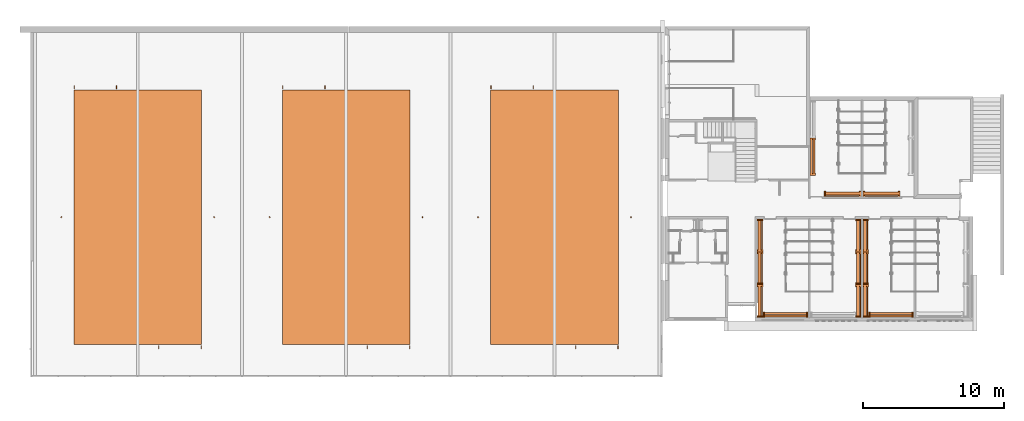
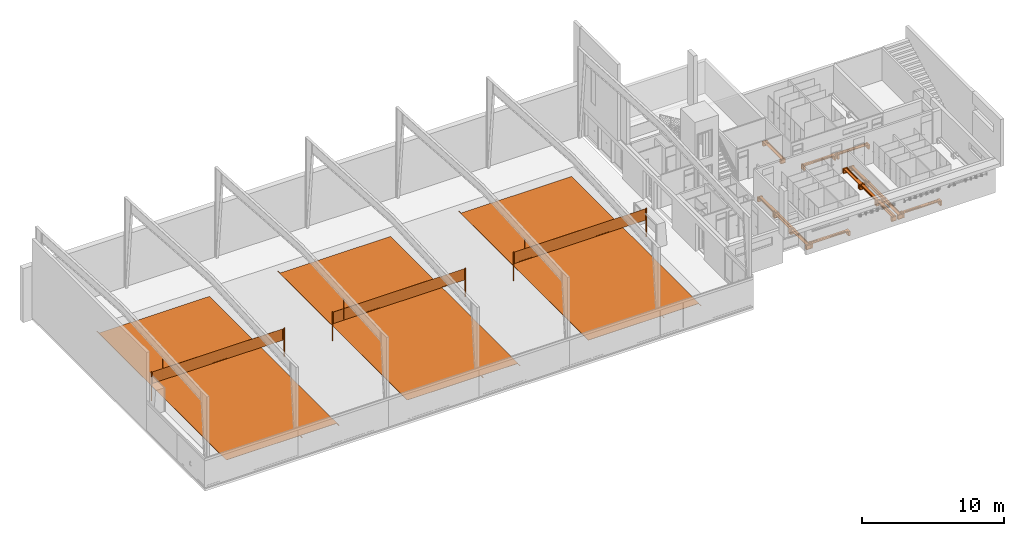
# One storey, part 43 of 45: 17 proxies.
"""IFC2X3 building model written with IfcOpenShell, lengths in metres."""

from ifc_helpers import new_model, entity, si_unit, converted_unit, money_unit, direction, frame, origin_with_axes, place, context, subcontext, project, spatial, open_shell, faceted_brep, surface_model, source, transform, mapped, material, type_object, element, save


model = new_model("IFC2X3")

# Units and contexts
model_context = context("Model", 3, precision=1e-05, world=origin_with_axes(), true_north=direction((0.0, 1.0)))
body_context = subcontext(model_context, "Body", "Model", "MODEL_VIEW")
ifc_project = project(units=[si_unit("LENGTHUNIT", "METRE"), si_unit("AREAUNIT", "SQUARE_METRE"), si_unit("VOLUMEUNIT", "CUBIC_METRE"), converted_unit("PLANEANGLEUNIT", "DEGREE", entity("IfcPlaneAngleMeasure", 0.0174532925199), si_unit("PLANEANGLEUNIT", "RADIAN"), dimensions=[0, 0, 0, 0, 0, 0, 0]), si_unit("SOLIDANGLEUNIT", "STERADIAN"), money_unit("EUR"), converted_unit("TIMEUNIT", "Year", entity("IfcTimeMeasure", 31556926.0), si_unit("TIMEUNIT", "SECOND"), dimensions=[0, 0, 0, 0, 0, 0, 0]), si_unit("MASSUNIT", "GRAM"), si_unit("THERMODYNAMICTEMPERATUREUNIT", "DEGREE_CELSIUS"), si_unit("LUMINOUSINTENSITYUNIT", "LUMEN")], contexts=[model_context])

# Site, building, storey
site_placement = place(None, origin_with_axes())
site = spatial("IfcSite", under=ifc_project, at=site_placement, Name="Site", CompositionType="ELEMENT")
building_placement = place(site_placement, origin_with_axes())
building = spatial("IfcBuilding", under=site, at=building_placement, Name="Bâtiment", CompositionType="ELEMENT")
storey_placement = place(building_placement, origin_with_axes())
storey = spatial("IfcBuildingStorey", under=building, at=storey_placement, Name="NIVEAU BAS GYMNASE", CompositionType="ELEMENT", Elevation=0.0)

# Proxies
ifc_material = material(Name="AS_EMPTY")
building_element_proxy_type_1 = type_object("IfcBuildingElementProxyType", Name="Banc public 04 10", PredefinedType="NOTDEFINED")
shared_shape_1 = source(origin_with_axes(), body_context, "Body", "Brep", [
    faceted_brep([(1.148333, -0.185, 0.0), (1.148333, -0.185, 0.05), (1.028333, -0.185, 0.05), (1.028333, -0.185, 0.0), (1.148333, 0.185, 0.0), (1.148333, 0.185, 0.05), (1.028333, 0.185, 0.05), (1.028333, 0.185, 0.0)], [[[0, 1, 2, 3]], [[4, 5, 1, 0]], [[1, 5, 6, 2]], [[3, 2, 6, 7]], [[0, 3, 7, 4]], [[7, 6, 5, 4]]]),
    faceted_brep([(1.163333, -0.2, 0.05), (1.163333, -0.2, 0.35), (1.013333, -0.2, 0.35), (1.013333, -0.2, 0.05), (1.163333, 0.2, 0.05), (1.163333, 0.2, 0.35), (1.013333, 0.2, 0.35), (1.013333, 0.2, 0.05)], [[[0, 1, 2, 3]], [[4, 5, 1, 0]], [[1, 5, 6, 2]], [[3, 2, 6, 7]], [[0, 3, 7, 4]], [[7, 6, 5, 4]]]),
    faceted_brep([(1.163333, -0.2, 0.35), (1.163333, -0.2, 0.39), (1.013333, -0.2, 0.39), (1.013333, -0.2, 0.35), (1.163333, 0.2, 0.35), (1.163333, 0.2, 0.39), (1.013333, 0.2, 0.39), (1.013333, 0.175, 0.39), (1.078333, 0.175, 0.39), (1.078333, -0.175, 0.39), (1.013333, -0.175, 0.39), (1.013333, -0.175, 0.35), (1.078333, -0.175, 0.35), (1.078333, 0.175, 0.35), (1.013333, 0.175, 0.35), (1.013333, 0.2, 0.35)], [[[0, 1, 2, 3]], [[4, 5, 1, 0]], [[1, 5, 6, 7, 8, 9, 10, 2]], [[3, 2, 10, 11]], [[0, 3, 11, 12, 13, 14, 15, 4]], [[15, 6, 5, 4]], [[14, 7, 6, 15]], [[13, 8, 7, 14]], [[12, 9, 8, 13]], [[11, 10, 9, 12]]]),
    faceted_brep([(-1.148333, -0.185, 0.0), (-1.028333, -0.185, 0.0), (-1.028333, -0.185, 0.05), (-1.148333, -0.185, 0.05), (-1.148333, 0.185, 0.0), (-1.028333, 0.185, 0.0), (-1.028333, 0.185, 0.05), (-1.148333, 0.185, 0.05)], [[[0, 1, 2, 3]], [[0, 4, 5, 1]], [[1, 5, 6, 2]], [[3, 2, 6, 7]], [[4, 0, 3, 7]], [[5, 4, 7, 6]]]),
    faceted_brep([(-1.163333, -0.2, 0.05), (-1.013333, -0.2, 0.05), (-1.013333, -0.2, 0.35), (-1.163333, -0.2, 0.35), (-1.163333, 0.2, 0.05), (-1.013333, 0.2, 0.05), (-1.013333, 0.2, 0.35), (-1.163333, 0.2, 0.35)], [[[0, 1, 2, 3]], [[0, 4, 5, 1]], [[1, 5, 6, 2]], [[3, 2, 6, 7]], [[4, 0, 3, 7]], [[5, 4, 7, 6]]]),
    faceted_brep([(-1.163333, -0.2, 0.35), (-1.013333, -0.2, 0.35), (-1.013333, -0.2, 0.39), (-1.163333, -0.2, 0.39), (-1.163333, 0.2, 0.35), (-1.013333, 0.2, 0.35), (-1.013333, 0.175, 0.35), (-1.078333, 0.175, 0.35), (-1.078333, -0.175, 0.35), (-1.013333, -0.175, 0.35), (-1.013333, -0.175, 0.39), (-1.078333, -0.175, 0.39), (-1.078333, 0.175, 0.39), (-1.013333, 0.175, 0.39), (-1.013333, 0.2, 0.39), (-1.163333, 0.2, 0.39)], [[[0, 1, 2, 3]], [[0, 4, 5, 6, 7, 8, 9, 1]], [[1, 9, 10, 2]], [[3, 2, 10, 11, 12, 13, 14, 15]], [[4, 0, 3, 15]], [[5, 4, 15, 14]], [[6, 5, 14, 13]], [[7, 6, 13, 12]], [[8, 7, 12, 11]], [[9, 8, 11, 10]]]),
    faceted_brep([(1.063333, -0.16, 0.35), (1.063333, -0.16, 0.39), (-1.063333, -0.16, 0.39), (-1.063333, -0.16, 0.35), (1.063333, -0.0875, 0.35), (1.063333, -0.0875, 0.39), (-1.063333, -0.0875, 0.39), (-1.063333, -0.0875, 0.35)], [[[0, 1, 2, 3]], [[4, 5, 1, 0]], [[1, 5, 6, 2]], [[3, 2, 6, 7]], [[0, 3, 7, 4]], [[7, 6, 5, 4]]]),
    faceted_brep([(1.063333, -0.0775, 0.35), (1.063333, -0.0775, 0.39), (-1.063333, -0.0775, 0.39), (-1.063333, -0.0775, 0.35), (1.063333, -0.005, 0.35), (1.063333, -0.005, 0.39), (-1.063333, -0.005, 0.39), (-1.063333, -0.005, 0.35)], [[[0, 1, 2, 3]], [[4, 5, 1, 0]], [[1, 5, 6, 2]], [[3, 2, 6, 7]], [[0, 3, 7, 4]], [[7, 6, 5, 4]]]),
    faceted_brep([(1.063333, 0.005, 0.35), (1.063333, 0.005, 0.39), (-1.063333, 0.005, 0.39), (-1.063333, 0.005, 0.35), (1.063333, 0.0775, 0.35), (1.063333, 0.0775, 0.39), (-1.063333, 0.0775, 0.39), (-1.063333, 0.0775, 0.35)], [[[0, 1, 2, 3]], [[4, 5, 1, 0]], [[1, 5, 6, 2]], [[3, 2, 6, 7]], [[0, 3, 7, 4]], [[7, 6, 5, 4]]]),
    faceted_brep([(1.063333, 0.0875, 0.35), (1.063333, 0.0875, 0.39), (-1.063333, 0.0875, 0.39), (-1.063333, 0.0875, 0.35), (1.063333, 0.16, 0.35), (1.063333, 0.16, 0.39), (-1.063333, 0.16, 0.39), (-1.063333, 0.16, 0.35)], [[[0, 1, 2, 3]], [[4, 5, 1, 0]], [[1, 5, 6, 2]], [[3, 2, 6, 7]], [[0, 3, 7, 4]], [[7, 6, 5, 4]]]),
])
for number, where, z_axis, x_axis, name in (
    (1, (59.168457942, 7.29214905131, 0.0), (0.0, 0.0, 1.0), (0.0, -1.0, 0.0), "Obj.-025"),
    (2, (59.168457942, 9.61881571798, 0.0), (0.0, 0.0, 1.0), (0.0, -1.0, 0.0), "Obj.-025"),
    (3, (59.168457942, 11.9454823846, 0.0), (0.0, 0.0, 1.0), (0.0, -1.0, 0.0), "Obj.-025"),
):
    element("IfcBuildingElementProxy", number, at=place(storey_placement, frame(where, z_axis=z_axis, x_axis=x_axis)), inside=storey, type_object=building_element_proxy_type_1, material=ifc_material, Name=name, context=body_context, shape_type="MappedRepresentation", body=[
        mapped(shared_shape_1, transform((0.0, 0.0, 0.0))),
    ])
shared_shape_2 = source(origin_with_axes(), body_context, "Body", "Brep", [
    faceted_brep([(-1.148333, -0.185, 0.0), (-1.028333, -0.185, 0.0), (-1.028333, -0.185, 0.05), (-1.148333, -0.185, 0.05), (-1.148333, 0.185, 0.0), (-1.028333, 0.185, 0.0), (-1.028333, 0.185, 0.05), (-1.148333, 0.185, 0.05)], [[[0, 1, 2, 3]], [[0, 4, 5, 1]], [[1, 5, 6, 2]], [[3, 2, 6, 7]], [[4, 0, 3, 7]], [[5, 4, 7, 6]]]),
    faceted_brep([(-1.163333, -0.2, 0.05), (-1.013333, -0.2, 0.05), (-1.013333, -0.2, 0.35), (-1.163333, -0.2, 0.35), (-1.163333, 0.2, 0.05), (-1.013333, 0.2, 0.05), (-1.013333, 0.2, 0.35), (-1.163333, 0.2, 0.35)], [[[0, 1, 2, 3]], [[0, 4, 5, 1]], [[1, 5, 6, 2]], [[3, 2, 6, 7]], [[4, 0, 3, 7]], [[5, 4, 7, 6]]]),
    faceted_brep([(-1.163333, -0.2, 0.35), (-1.013333, -0.2, 0.35), (-1.013333, -0.2, 0.39), (-1.163333, -0.2, 0.39), (-1.163333, 0.2, 0.35), (-1.013333, 0.2, 0.35), (-1.013333, 0.175, 0.35), (-1.078333, 0.175, 0.35), (-1.078333, -0.175, 0.35), (-1.013333, -0.175, 0.35), (-1.013333, -0.175, 0.39), (-1.078333, -0.175, 0.39), (-1.078333, 0.175, 0.39), (-1.013333, 0.175, 0.39), (-1.013333, 0.2, 0.39), (-1.163333, 0.2, 0.39)], [[[0, 1, 2, 3]], [[0, 4, 5, 6, 7, 8, 9, 1]], [[1, 9, 10, 2]], [[3, 2, 10, 11, 12, 13, 14, 15]], [[4, 0, 3, 15]], [[5, 4, 15, 14]], [[6, 5, 14, 13]], [[7, 6, 13, 12]], [[8, 7, 12, 11]], [[9, 8, 11, 10]]]),
    faceted_brep([(1.148333, -0.185, 0.0), (1.148333, -0.185, 0.05), (1.028333, -0.185, 0.05), (1.028333, -0.185, 0.0), (1.148333, 0.185, 0.0), (1.148333, 0.185, 0.05), (1.028333, 0.185, 0.05), (1.028333, 0.185, 0.0)], [[[0, 1, 2, 3]], [[4, 5, 1, 0]], [[1, 5, 6, 2]], [[3, 2, 6, 7]], [[0, 3, 7, 4]], [[7, 6, 5, 4]]]),
    faceted_brep([(1.163333, -0.2, 0.05), (1.163333, -0.2, 0.35), (1.013333, -0.2, 0.35), (1.013333, -0.2, 0.05), (1.163333, 0.2, 0.05), (1.163333, 0.2, 0.35), (1.013333, 0.2, 0.35), (1.013333, 0.2, 0.05)], [[[0, 1, 2, 3]], [[4, 5, 1, 0]], [[1, 5, 6, 2]], [[3, 2, 6, 7]], [[0, 3, 7, 4]], [[7, 6, 5, 4]]]),
    faceted_brep([(1.163333, -0.2, 0.35), (1.163333, -0.2, 0.39), (1.013333, -0.2, 0.39), (1.013333, -0.2, 0.35), (1.163333, 0.2, 0.35), (1.163333, 0.2, 0.39), (1.013333, 0.2, 0.39), (1.013333, 0.175, 0.39), (1.078333, 0.175, 0.39), (1.078333, -0.175, 0.39), (1.013333, -0.175, 0.39), (1.013333, -0.175, 0.35), (1.078333, -0.175, 0.35), (1.078333, 0.175, 0.35), (1.013333, 0.175, 0.35), (1.013333, 0.2, 0.35)], [[[0, 1, 2, 3]], [[4, 5, 1, 0]], [[1, 5, 6, 7, 8, 9, 10, 2]], [[3, 2, 10, 11]], [[0, 3, 11, 12, 13, 14, 15, 4]], [[15, 6, 5, 4]], [[14, 7, 6, 15]], [[13, 8, 7, 14]], [[12, 9, 8, 13]], [[11, 10, 9, 12]]]),
    faceted_brep([(-1.063333, -0.16, 0.35), (1.063333, -0.16, 0.35), (1.063333, -0.16, 0.39), (-1.063333, -0.16, 0.39), (-1.063333, -0.0875, 0.35), (1.063333, -0.0875, 0.35), (1.063333, -0.0875, 0.39), (-1.063333, -0.0875, 0.39)], [[[0, 1, 2, 3]], [[0, 4, 5, 1]], [[1, 5, 6, 2]], [[3, 2, 6, 7]], [[4, 0, 3, 7]], [[5, 4, 7, 6]]]),
    faceted_brep([(-1.063333, -0.0775, 0.35), (1.063333, -0.0775, 0.35), (1.063333, -0.0775, 0.39), (-1.063333, -0.0775, 0.39), (-1.063333, -0.005, 0.35), (1.063333, -0.005, 0.35), (1.063333, -0.005, 0.39), (-1.063333, -0.005, 0.39)], [[[0, 1, 2, 3]], [[0, 4, 5, 1]], [[1, 5, 6, 2]], [[3, 2, 6, 7]], [[4, 0, 3, 7]], [[5, 4, 7, 6]]]),
    faceted_brep([(-1.063333, 0.005, 0.35), (1.063333, 0.005, 0.35), (1.063333, 0.005, 0.39), (-1.063333, 0.005, 0.39), (-1.063333, 0.0775, 0.35), (1.063333, 0.0775, 0.35), (1.063333, 0.0775, 0.39), (-1.063333, 0.0775, 0.39)], [[[0, 1, 2, 3]], [[0, 4, 5, 1]], [[1, 5, 6, 2]], [[3, 2, 6, 7]], [[4, 0, 3, 7]], [[5, 4, 7, 6]]]),
    faceted_brep([(-1.063333, 0.0875, 0.35), (1.063333, 0.0875, 0.35), (1.063333, 0.0875, 0.39), (-1.063333, 0.0875, 0.39), (-1.063333, 0.16, 0.35), (1.063333, 0.16, 0.35), (1.063333, 0.16, 0.39), (-1.063333, 0.16, 0.39)], [[[0, 1, 2, 3]], [[0, 4, 5, 1]], [[1, 5, 6, 2]], [[3, 2, 6, 7]], [[4, 0, 3, 7]], [[5, 4, 7, 6]]]),
])
for number, where, z_axis, x_axis, name in (
    (4, (52.198457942, 7.29214905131, 0.0), (0.0, 0.0, 1.0), (0.0, 1.0, 0.0), "Obj.-025"),
    (5, (52.198457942, 9.61881571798, 0.0), (0.0, 0.0, 1.0), (0.0, 1.0, 0.0), "Obj.-025"),
    (6, (52.198457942, 11.9454823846, 0.0), (0.0, 0.0, 1.0), (0.0, 1.0, 0.0), "Obj.-025"),
    (7, (59.668457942, 7.29214905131, 0.0), (0.0, 0.0, 1.0), (0.0, 1.0, 0.0), "Obj.-025"),
    (8, (59.668457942, 9.61881571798, 0.0), (0.0, 0.0, 1.0), (0.0, 1.0, 0.0), "Obj.-025"),
    (9, (59.668457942, 11.9454823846, 0.0), (0.0, 0.0, 1.0), (0.0, 1.0, 0.0), "Obj.-025"),
):
    element("IfcBuildingElementProxy", number, at=place(storey_placement, frame(where, z_axis=z_axis, x_axis=x_axis)), inside=storey, type_object=building_element_proxy_type_1, material=ifc_material, Name=name, context=body_context, shape_type="MappedRepresentation", body=[
        mapped(shared_shape_2, transform((0.0, 0.0, 0.0))),
    ])
shared_shape_3 = source(origin_with_axes(), body_context, "Body", "Brep", [
    faceted_brep([(-1.584885, -0.185, 0.0), (-1.464885, -0.185, 0.0), (-1.464885, -0.185, 0.05), (-1.584885, -0.185, 0.05), (-1.584885, 0.185, 0.0), (-1.464885, 0.185, 0.0), (-1.464885, 0.185, 0.05), (-1.584885, 0.185, 0.05)], [[[0, 1, 2, 3]], [[0, 4, 5, 1]], [[1, 5, 6, 2]], [[3, 2, 6, 7]], [[4, 0, 3, 7]], [[5, 4, 7, 6]]]),
    faceted_brep([(-1.599885, -0.2, 0.05), (-1.449885, -0.2, 0.05), (-1.449885, -0.2, 0.35), (-1.599885, -0.2, 0.35), (-1.599885, 0.2, 0.05), (-1.449885, 0.2, 0.05), (-1.449885, 0.2, 0.35), (-1.599885, 0.2, 0.35)], [[[0, 1, 2, 3]], [[0, 4, 5, 1]], [[1, 5, 6, 2]], [[3, 2, 6, 7]], [[4, 0, 3, 7]], [[5, 4, 7, 6]]]),
    faceted_brep([(-1.599885, -0.2, 0.35), (-1.449885, -0.2, 0.35), (-1.449885, -0.2, 0.39), (-1.599885, -0.2, 0.39), (-1.599885, 0.2, 0.35), (-1.449885, 0.2, 0.35), (-1.449885, 0.175, 0.35), (-1.514885, 0.175, 0.35), (-1.514885, -0.175, 0.35), (-1.449885, -0.175, 0.35), (-1.449885, -0.175, 0.39), (-1.514885, -0.175, 0.39), (-1.514885, 0.175, 0.39), (-1.449885, 0.175, 0.39), (-1.449885, 0.2, 0.39), (-1.599885, 0.2, 0.39)], [[[0, 1, 2, 3]], [[0, 4, 5, 6, 7, 8, 9, 1]], [[1, 9, 10, 2]], [[3, 2, 10, 11, 12, 13, 14, 15]], [[4, 0, 3, 15]], [[5, 4, 15, 14]], [[6, 5, 14, 13]], [[7, 6, 13, 12]], [[8, 7, 12, 11]], [[9, 8, 11, 10]]]),
    faceted_brep([(1.584885, -0.185, 0.0), (1.584885, -0.185, 0.05), (1.464885, -0.185, 0.05), (1.464885, -0.185, 0.0), (1.584885, 0.185, 0.0), (1.584885, 0.185, 0.05), (1.464885, 0.185, 0.05), (1.464885, 0.185, 0.0)], [[[0, 1, 2, 3]], [[4, 5, 1, 0]], [[1, 5, 6, 2]], [[3, 2, 6, 7]], [[0, 3, 7, 4]], [[7, 6, 5, 4]]]),
    faceted_brep([(1.599885, -0.2, 0.05), (1.599885, -0.2, 0.35), (1.449885, -0.2, 0.35), (1.449885, -0.2, 0.05), (1.599885, 0.2, 0.05), (1.599885, 0.2, 0.35), (1.449885, 0.2, 0.35), (1.449885, 0.2, 0.05)], [[[0, 1, 2, 3]], [[4, 5, 1, 0]], [[1, 5, 6, 2]], [[3, 2, 6, 7]], [[0, 3, 7, 4]], [[7, 6, 5, 4]]]),
    faceted_brep([(1.599885, -0.2, 0.35), (1.599885, -0.2, 0.39), (1.449885, -0.2, 0.39), (1.449885, -0.2, 0.35), (1.599885, 0.2, 0.35), (1.599885, 0.2, 0.39), (1.449885, 0.2, 0.39), (1.449885, 0.175, 0.39), (1.514885, 0.175, 0.39), (1.514885, -0.175, 0.39), (1.449885, -0.175, 0.39), (1.449885, -0.175, 0.35), (1.514885, -0.175, 0.35), (1.514885, 0.175, 0.35), (1.449885, 0.175, 0.35), (1.449885, 0.2, 0.35)], [[[0, 1, 2, 3]], [[4, 5, 1, 0]], [[1, 5, 6, 7, 8, 9, 10, 2]], [[3, 2, 10, 11]], [[0, 3, 11, 12, 13, 14, 15, 4]], [[15, 6, 5, 4]], [[14, 7, 6, 15]], [[13, 8, 7, 14]], [[12, 9, 8, 13]], [[11, 10, 9, 12]]]),
    faceted_brep([(-1.499885, -0.16, 0.35), (1.499885, -0.16, 0.35), (1.499885, -0.16, 0.39), (-1.499885, -0.16, 0.39), (-1.499885, -0.0875, 0.35), (1.499885, -0.0875, 0.35), (1.499885, -0.0875, 0.39), (-1.499885, -0.0875, 0.39)], [[[0, 1, 2, 3]], [[0, 4, 5, 1]], [[1, 5, 6, 2]], [[3, 2, 6, 7]], [[4, 0, 3, 7]], [[5, 4, 7, 6]]]),
    faceted_brep([(-1.499885, -0.0775, 0.35), (1.499885, -0.0775, 0.35), (1.499885, -0.0775, 0.39), (-1.499885, -0.0775, 0.39), (-1.499885, -0.005, 0.35), (1.499885, -0.005, 0.35), (1.499885, -0.005, 0.39), (-1.499885, -0.005, 0.39)], [[[0, 1, 2, 3]], [[0, 4, 5, 1]], [[1, 5, 6, 2]], [[3, 2, 6, 7]], [[4, 0, 3, 7]], [[5, 4, 7, 6]]]),
    faceted_brep([(-1.499885, 0.005, 0.35), (1.499885, 0.005, 0.35), (1.499885, 0.005, 0.39), (-1.499885, 0.005, 0.39), (-1.499885, 0.0775, 0.35), (1.499885, 0.0775, 0.35), (1.499885, 0.0775, 0.39), (-1.499885, 0.0775, 0.39)], [[[0, 1, 2, 3]], [[0, 4, 5, 1]], [[1, 5, 6, 2]], [[3, 2, 6, 7]], [[4, 0, 3, 7]], [[5, 4, 7, 6]]]),
    faceted_brep([(-1.499885, 0.0875, 0.35), (1.499885, 0.0875, 0.35), (1.499885, 0.0875, 0.39), (-1.499885, 0.0875, 0.39), (-1.499885, 0.16, 0.35), (1.499885, 0.16, 0.35), (1.499885, 0.16, 0.39), (-1.499885, 0.16, 0.39)], [[[0, 1, 2, 3]], [[0, 4, 5, 1]], [[1, 5, 6, 2]], [[3, 2, 6, 7]], [[4, 0, 3, 7]], [[5, 4, 7, 6]]]),
])
for number, where, z_axis, x_axis, name in (
    (10, (53.9983429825, 6.32881571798, 0.0), (0.0, 0.0, 1.0), (-1.0, 0.0, 0.0), "Obj.-025"),
    (11, (61.4683429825, 6.32881571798, 0.0), (0.0, 0.0, 1.0), (-1.0, 0.0, 0.0), "Obj.-025"),
):
    element("IfcBuildingElementProxy", number, at=place(storey_placement, frame(where, z_axis=z_axis, x_axis=x_axis)), inside=storey, type_object=building_element_proxy_type_1, material=ifc_material, Name=name, context=body_context, shape_type="MappedRepresentation", body=[
        mapped(shared_shape_3, transform((0.0, 0.0, 0.0))),
    ])
shared_shape_4 = source(origin_with_axes(), body_context, "Body", "Brep", [
    faceted_brep([(-1.31, -0.185, 0.0), (-1.19, -0.185, 0.0), (-1.19, -0.185, 0.05), (-1.31, -0.185, 0.05), (-1.31, 0.185, 0.0), (-1.19, 0.185, 0.0), (-1.19, 0.185, 0.05), (-1.31, 0.185, 0.05)], [[[0, 1, 2, 3]], [[0, 4, 5, 1]], [[1, 5, 6, 2]], [[3, 2, 6, 7]], [[4, 0, 3, 7]], [[5, 4, 7, 6]]]),
    faceted_brep([(-1.325, -0.2, 0.05), (-1.175, -0.2, 0.05), (-1.175, -0.2, 0.35), (-1.325, -0.2, 0.35), (-1.325, 0.2, 0.05), (-1.175, 0.2, 0.05), (-1.175, 0.2, 0.35), (-1.325, 0.2, 0.35)], [[[0, 1, 2, 3]], [[0, 4, 5, 1]], [[1, 5, 6, 2]], [[3, 2, 6, 7]], [[4, 0, 3, 7]], [[5, 4, 7, 6]]]),
    faceted_brep([(-1.325, -0.2, 0.35), (-1.175, -0.2, 0.35), (-1.175, -0.2, 0.39), (-1.325, -0.2, 0.39), (-1.325, 0.2, 0.35), (-1.175, 0.2, 0.35), (-1.175, 0.175, 0.35), (-1.24, 0.175, 0.35), (-1.24, -0.175, 0.35), (-1.175, -0.175, 0.35), (-1.175, -0.175, 0.39), (-1.24, -0.175, 0.39), (-1.24, 0.175, 0.39), (-1.175, 0.175, 0.39), (-1.175, 0.2, 0.39), (-1.325, 0.2, 0.39)], [[[0, 1, 2, 3]], [[0, 4, 5, 6, 7, 8, 9, 1]], [[1, 9, 10, 2]], [[3, 2, 10, 11, 12, 13, 14, 15]], [[4, 0, 3, 15]], [[5, 4, 15, 14]], [[6, 5, 14, 13]], [[7, 6, 13, 12]], [[8, 7, 12, 11]], [[9, 8, 11, 10]]]),
    faceted_brep([(1.31, -0.185, 0.0), (1.31, -0.185, 0.05), (1.19, -0.185, 0.05), (1.19, -0.185, 0.0), (1.31, 0.185, 0.0), (1.31, 0.185, 0.05), (1.19, 0.185, 0.05), (1.19, 0.185, 0.0)], [[[0, 1, 2, 3]], [[4, 5, 1, 0]], [[1, 5, 6, 2]], [[3, 2, 6, 7]], [[0, 3, 7, 4]], [[7, 6, 5, 4]]]),
    faceted_brep([(1.325, -0.2, 0.05), (1.325, -0.2, 0.35), (1.175, -0.2, 0.35), (1.175, -0.2, 0.05), (1.325, 0.2, 0.05), (1.325, 0.2, 0.35), (1.175, 0.2, 0.35), (1.175, 0.2, 0.05)], [[[0, 1, 2, 3]], [[4, 5, 1, 0]], [[1, 5, 6, 2]], [[3, 2, 6, 7]], [[0, 3, 7, 4]], [[7, 6, 5, 4]]]),
    faceted_brep([(1.325, -0.2, 0.35), (1.325, -0.2, 0.39), (1.175, -0.2, 0.39), (1.175, -0.2, 0.35), (1.325, 0.2, 0.35), (1.325, 0.2, 0.39), (1.175, 0.2, 0.39), (1.175, 0.175, 0.39), (1.24, 0.175, 0.39), (1.24, -0.175, 0.39), (1.175, -0.175, 0.39), (1.175, -0.175, 0.35), (1.24, -0.175, 0.35), (1.24, 0.175, 0.35), (1.175, 0.175, 0.35), (1.175, 0.2, 0.35)], [[[0, 1, 2, 3]], [[4, 5, 1, 0]], [[1, 5, 6, 7, 8, 9, 10, 2]], [[3, 2, 10, 11]], [[0, 3, 11, 12, 13, 14, 15, 4]], [[15, 6, 5, 4]], [[14, 7, 6, 15]], [[13, 8, 7, 14]], [[12, 9, 8, 13]], [[11, 10, 9, 12]]]),
    faceted_brep([(-1.225, -0.16, 0.35), (1.225, -0.16, 0.35), (1.225, -0.16, 0.39), (-1.225, -0.16, 0.39), (-1.225, -0.0875, 0.35), (1.225, -0.0875, 0.35), (1.225, -0.0875, 0.39), (-1.225, -0.0875, 0.39)], [[[0, 1, 2, 3]], [[0, 4, 5, 1]], [[1, 5, 6, 2]], [[3, 2, 6, 7]], [[4, 0, 3, 7]], [[5, 4, 7, 6]]]),
    faceted_brep([(-1.225, -0.0775, 0.35), (1.225, -0.0775, 0.35), (1.225, -0.0775, 0.39), (-1.225, -0.0775, 0.39), (-1.225, -0.005, 0.35), (1.225, -0.005, 0.35), (1.225, -0.005, 0.39), (-1.225, -0.005, 0.39)], [[[0, 1, 2, 3]], [[0, 4, 5, 1]], [[1, 5, 6, 2]], [[3, 2, 6, 7]], [[4, 0, 3, 7]], [[5, 4, 7, 6]]]),
    faceted_brep([(-1.225, 0.005, 0.35), (1.225, 0.005, 0.35), (1.225, 0.005, 0.39), (-1.225, 0.005, 0.39), (-1.225, 0.0775, 0.35), (1.225, 0.0775, 0.35), (1.225, 0.0775, 0.39), (-1.225, 0.0775, 0.39)], [[[0, 1, 2, 3]], [[0, 4, 5, 1]], [[1, 5, 6, 2]], [[3, 2, 6, 7]], [[4, 0, 3, 7]], [[5, 4, 7, 6]]]),
    faceted_brep([(-1.225, 0.0875, 0.35), (1.225, 0.0875, 0.35), (1.225, 0.0875, 0.39), (-1.225, 0.0875, 0.39), (-1.225, 0.16, 0.35), (1.225, 0.16, 0.35), (1.225, 0.16, 0.39), (-1.225, 0.16, 0.39)], [[[0, 1, 2, 3]], [[0, 4, 5, 1]], [[1, 5, 6, 2]], [[3, 2, 6, 7]], [[4, 0, 3, 7]], [[5, 4, 7, 6]]]),
])
for number, where, z_axis, x_axis, name in (
    (12, (55.933457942, 17.523815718, 0.0), (0.0, 0.0, 1.0), (0.0, 1.0, 0.0), "Obj.-025"),
    (13, (58.043457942, 14.868815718, 0.0), (0.0, 0.0, 1.0), (-1.0, 0.0, 0.0), "Obj.-025"),
    (14, (60.793457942, 14.868815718, 0.0), (0.0, 0.0, 1.0), (-1.0, 0.0, 0.0), "Obj.-025"),
):
    element("IfcBuildingElementProxy", number, at=place(storey_placement, frame(where, z_axis=z_axis, x_axis=x_axis)), inside=storey, type_object=building_element_proxy_type_1, material=ifc_material, Name=name, context=body_context, shape_type="MappedRepresentation", body=[
        mapped(shared_shape_4, transform((0.0, 0.0, 0.0))),
    ])
building_element_proxy_type_2 = type_object("IfcBuildingElementProxyType", Name="Terrain de volley 10", PredefinedType="NOTDEFINED")
shared_shape_5 = source(origin_with_axes(), body_context, "Body", "SurfaceModel", [
    faceted_brep([(-4.4704, 3.0226, 0.0), (4.4704, 3.0226, 0.0), (4.4704, 3.0226, 0.0254), (-4.4704, 3.0226, 0.0254), (-4.4704, 8.9662, 0.0), (4.4704, 8.9662, 0.0), (4.4704, 8.9662, 0.0254), (-4.4704, 8.9662, 0.0254)], [[[0, 1, 2, 3]], [[0, 4, 5, 1]], [[1, 5, 6, 2]], [[3, 2, 6, 7]], [[4, 0, 3, 7]], [[5, 4, 7, 6]]]),
    faceted_brep([(4.4704, 2.9718, 0.0), (-4.4704, 2.9718, 0.0), (-4.4704, 2.9718, 0.0254), (4.4704, 2.9718, 0.0254), (4.4704, 0.0254, 0.0), (-4.4704, 0.0254, 0.0), (-4.4704, 0.0254, 0.0254), (4.4704, 0.0254, 0.0254)], [[[0, 1, 2, 3]], [[0, 4, 5, 1]], [[1, 5, 6, 2]], [[3, 2, 6, 7]], [[4, 0, 3, 7]], [[5, 4, 7, 6]]]),
    faceted_brep([(-4.4704, -0.0254, 0.0), (-4.4704, -2.9718, 0.0), (-4.4704, -2.9718, 0.0254), (-4.4704, -0.0254, 0.0254), (4.4704, -0.0254, 0.0), (4.4704, -2.9718, 0.0), (4.4704, -2.9718, 0.0254), (4.4704, -0.0254, 0.0254)], [[[0, 1, 2, 3]], [[0, 4, 5, 1]], [[1, 5, 6, 2]], [[3, 2, 6, 7]], [[4, 0, 3, 7]], [[5, 4, 7, 6]]]),
    faceted_brep([(-4.4704, -3.0226, 0.0), (-4.4704, -8.9662, 0.0), (-4.4704, -8.9662, 0.0254), (-4.4704, -3.0226, 0.0254), (4.4704, -3.0226, 0.0), (4.4704, -8.9662, 0.0), (4.4704, -8.9662, 0.0254), (4.4704, -3.0226, 0.0254)], [[[0, 1, 2, 3]], [[0, 4, 5, 1]], [[1, 5, 6, 2]], [[3, 2, 6, 7]], [[4, 0, 3, 7]], [[5, 4, 7, 6]]]),
    faceted_brep([(-1.524, 9.0678, 0.0), (-1.4732, 9.0678, 0.0), (-1.4732, 9.0678, 0.0254), (-1.524, 9.0678, 0.0254), (-1.524, 9.3218, 0.0), (-1.4732, 9.3218, 0.0), (-1.4732, 9.3218, 0.0254), (-1.524, 9.3218, 0.0254)], [[[0, 1, 2, 3]], [[0, 4, 5, 1]], [[1, 5, 6, 2]], [[3, 2, 6, 7]], [[4, 0, 3, 7]], [[5, 4, 7, 6]]]),
    faceted_brep([(1.524, -9.0678, 0.0), (1.4732, -9.0678, 0.0), (1.4732, -9.0678, 0.0254), (1.524, -9.0678, 0.0254), (1.524, -9.3218, 0.0), (1.4732, -9.3218, 0.0), (1.4732, -9.3218, 0.0254), (1.524, -9.3218, 0.0254)], [[[0, 1, 2, 3]], [[0, 4, 5, 1]], [[1, 5, 6, 2]], [[3, 2, 6, 7]], [[4, 0, 3, 7]], [[5, 4, 7, 6]]]),
    faceted_brep([(-4.5212, 9.0678, 0.0), (-4.4704, 9.0678, 0.0), (-4.4704, 9.0678, 0.0254), (-4.5212, 9.0678, 0.0254), (-4.5212, 9.3218, 0.0), (-4.4704, 9.3218, 0.0), (-4.4704, 9.3218, 0.0254), (-4.5212, 9.3218, 0.0254)], [[[0, 1, 2, 3]], [[0, 4, 5, 1]], [[1, 5, 6, 2]], [[3, 2, 6, 7]], [[4, 0, 3, 7]], [[5, 4, 7, 6]]]),
    faceted_brep([(4.5212, -9.0678, 0.0), (4.4704, -9.0678, 0.0), (4.4704, -9.0678, 0.0254), (4.5212, -9.0678, 0.0254), (4.5212, -9.3218, 0.0), (4.4704, -9.3218, 0.0), (4.4704, -9.3218, 0.0254), (4.5212, -9.3218, 0.0254)], [[[0, 1, 2, 3]], [[0, 4, 5, 1]], [[1, 5, 6, 2]], [[3, 2, 6, 7]], [[4, 0, 3, 7]], [[5, 4, 7, 6]]]),
    faceted_brep([(-4.5212, 9.017, 0.0), (-4.5212, -9.017, 0.0), (-4.5212, -9.017, 0.0254), (-4.5212, 9.017, 0.0254), (4.5212, 9.017, 0.0), (4.5212, -9.017, 0.0), (-4.4704, 8.9662, 0.0), (-4.4704, 3.0226, 0.0), (4.4704, 3.0226, 0.0), (4.4704, 8.9662, 0.0), (-4.4704, 2.9718, 0.0), (-4.4704, 0.0254, 0.0), (4.4704, 0.0254, 0.0), (4.4704, 2.9718, 0.0), (-4.4704, -2.9718, 0.0), (4.4704, -2.9718, 0.0), (4.4704, -0.0254, 0.0), (-4.4704, -0.0254, 0.0), (-4.4704, -8.9662, 0.0), (4.4704, -8.9662, 0.0), (4.4704, -3.0226, 0.0), (-4.4704, -3.0226, 0.0), (4.5212, -9.017, 0.0254), (4.5212, 9.017, 0.0254), (-4.4704, 8.9662, 0.0254), (4.4704, 8.9662, 0.0254), (4.4704, 3.0226, 0.0254), (-4.4704, 3.0226, 0.0254), (-4.4704, 2.9718, 0.0254), (4.4704, 2.9718, 0.0254), (4.4704, 0.0254, 0.0254), (-4.4704, 0.0254, 0.0254), (-4.4704, -2.9718, 0.0254), (-4.4704, -0.0254, 0.0254), (4.4704, -0.0254, 0.0254), (4.4704, -2.9718, 0.0254), (-4.4704, -8.9662, 0.0254), (-4.4704, -3.0226, 0.0254), (4.4704, -3.0226, 0.0254), (4.4704, -8.9662, 0.0254)], [[[0, 1, 2, 3]], [[0, 4, 5, 1], [6, 7, 8, 9], [10, 11, 12, 13], [14, 15, 16, 17], [18, 19, 20, 21]], [[1, 5, 22, 2]], [[3, 2, 22, 23], [24, 25, 26, 27], [28, 29, 30, 31], [32, 33, 34, 35], [36, 37, 38, 39]], [[4, 0, 3, 23]], [[5, 4, 23, 22]], [[7, 6, 24, 27]], [[8, 7, 27, 26]], [[9, 8, 26, 25]], [[6, 9, 25, 24]], [[11, 10, 28, 31]], [[12, 11, 31, 30]], [[13, 12, 30, 29]], [[10, 13, 29, 28]], [[15, 14, 32, 35]], [[16, 15, 35, 34]], [[17, 16, 34, 33]], [[14, 17, 33, 32]], [[19, 18, 36, 39]], [[20, 19, 39, 38]], [[21, 20, 38, 37]], [[18, 21, 37, 36]]]),
    faceted_brep([(-4.5212, 9.017, 0.0), (-4.5212, -9.017, 0.0), (-4.5212, -9.017, 0.0254), (-4.5212, 9.017, 0.0254), (4.5212, 9.017, 0.0), (4.5212, -9.017, 0.0), (-4.5212, 9.017, 0.0), (-4.5212, -9.017, 0.0), (4.5212, -9.017, 0.0), (4.5212, 9.017, 0.0), (4.5212, -9.017, 0.0254), (4.5212, 9.017, 0.0254), (-4.5212, 9.017, 0.0254), (4.5212, 9.017, 0.0254), (4.5212, -9.017, 0.0254), (-4.5212, -9.017, 0.0254)], [[[0, 1, 2, 3]], [[0, 4, 5, 1], [6, 7, 8, 9]], [[1, 5, 10, 2]], [[3, 2, 10, 11], [12, 13, 14, 15]], [[4, 0, 3, 11]], [[5, 4, 11, 10]], [[7, 6, 12, 15]], [[8, 7, 15, 14]], [[9, 8, 14, 13]], [[6, 9, 13, 12]]]),
    faceted_brep([(5.461, 0.0, 0.0), (5.4356, 0.043994, 0.0), (5.4356, 0.043994, 2.454275), (5.461, 0.0, 2.454275), (5.4356, -0.043994, 0.0), (5.3848, -0.043994, 0.0), (5.3594, 0.0, 0.0), (5.3848, 0.043994, 0.0), (5.3848, 0.043994, 2.454275), (5.3594, 0.0, 2.454275), (5.3848, -0.043994, 2.454275), (5.4356, -0.043994, 2.454275)], [[[0, 1, 2, 3]], [[0, 4, 5, 6, 7, 1]], [[1, 7, 8, 2]], [[3, 2, 8, 9, 10, 11]], [[4, 0, 3, 11]], [[5, 4, 11, 10]], [[6, 5, 10, 9]], [[7, 6, 9, 8]]]),
    faceted_brep([(-5.3594, 0.0, 0.0), (-5.3848, 0.043994, 0.0), (-5.3848, 0.043994, 2.454275), (-5.3594, 0.0, 2.454275), (-5.3848, -0.043994, 0.0), (-5.4356, -0.043994, 0.0), (-5.461, 0.0, 0.0), (-5.4356, 0.043994, 0.0), (-5.4356, 0.043994, 2.454275), (-5.461, 0.0, 2.454275), (-5.4356, -0.043994, 2.454275), (-5.3848, -0.043994, 2.454275)], [[[0, 1, 2, 3]], [[0, 4, 5, 6, 7, 1]], [[1, 7, 8, 2]], [[3, 2, 8, 9, 10, 11]], [[4, 0, 3, 11]], [[5, 4, 11, 10]], [[6, 5, 10, 9]], [[7, 6, 9, 8]]]),
    faceted_brep([(-4.494819, -0.00302, 1.438275), (-4.498369, -0.001866, 1.438275), (-4.498369, 0.001866, 1.438275), (-4.494819, 0.00302, 1.438275), (-4.492625, 0.0, 1.438275), (-4.494819, -0.00302, 3.241675), (-4.498369, -0.001866, 3.241675), (-4.498369, 0.001866, 3.241675), (-4.494819, 0.00302, 3.241675), (-4.492625, 0.0, 3.241675)], [[[0, 1, 2, 3, 4]], [[1, 0, 5, 6]], [[2, 1, 6, 7]], [[3, 2, 7, 8]], [[4, 3, 8, 9]], [[0, 4, 9, 5]], [[5, 9, 8, 7, 6]]]),
    faceted_brep([(4.496781, -0.00302, 1.438275), (4.493231, -0.001866, 1.438275), (4.493231, 0.001866, 1.438275), (4.496781, 0.00302, 1.438275), (4.498975, 0.0, 1.438275), (4.496781, -0.00302, 3.241675), (4.493231, -0.001866, 3.241675), (4.493231, 0.001866, 3.241675), (4.496781, 0.00302, 3.241675), (4.498975, 0.0, 3.241675)], [[[0, 1, 2, 3, 4]], [[1, 0, 5, 6]], [[2, 1, 6, 7]], [[3, 2, 7, 8]], [[4, 3, 8, 9]], [[0, 4, 9, 5]], [[5, 9, 8, 7, 6]]]),
    faceted_brep([(-5.334, 0.003175, 1.438275), (5.334, 0.003175, 1.438275), (5.334, -0.003175, 1.438275), (-5.334, -0.003175, 1.438275), (-5.334, 0.003175, 2.428875), (5.334, 0.003175, 2.428875), (-5.2832, 0.003175, 1.489075), (5.2832, 0.003175, 1.489075), (5.2832, 0.003175, 2.378075), (-5.2832, 0.003175, 2.378075), (5.334, -0.003175, 2.428875), (-5.334, -0.003175, 2.428875), (-5.2832, -0.003175, 1.489075), (-5.2832, -0.003175, 2.378075), (5.2832, -0.003175, 2.378075), (5.2832, -0.003175, 1.489075)], [[[0, 1, 2, 3]], [[0, 4, 5, 1], [6, 7, 8, 9]], [[1, 5, 10, 2]], [[3, 2, 10, 11], [12, 13, 14, 15]], [[4, 0, 3, 11]], [[5, 4, 11, 10]], [[7, 6, 12, 15]], [[8, 7, 15, 14]], [[9, 8, 14, 13]], [[6, 9, 13, 12]]]),
    surface_model("IfcShellBasedSurfaceModel", [(-5.2832, 0.0, 1.489075), (-5.2832, 0.0, 2.378075), (5.2832, 0.0, 2.378075), (5.2832, 0.0, 1.489075)], [open_shell([[[0, 1, 2, 3]]])]),
])
for number, where, z_axis, x_axis, name in (
    (15, (37.6519518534, 13.2316184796, 0.015), (0.0, 0.0, 1.0), (1.0, 0.0, 0.0), "Obj.-016"),
    (16, (8.14528518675, 13.2316184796, 0.015), (0.0, 0.0, 1.0), (1.0, 0.0, 0.0), "Obj.-016"),
    (17, (22.8986185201, 13.2316184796, 0.015), (0.0, 0.0, 1.0), (1.0, 0.0, 0.0), "Obj.-016"),
):
    element("IfcBuildingElementProxy", number, at=place(storey_placement, frame(where, z_axis=z_axis, x_axis=x_axis)), inside=storey, type_object=building_element_proxy_type_2, material=ifc_material, Name=name, context=body_context, shape_type="MappedRepresentation", body=[
        mapped(shared_shape_5, transform((0.0, 0.0, 0.0))),
    ])

save(model, "model.ifc")
